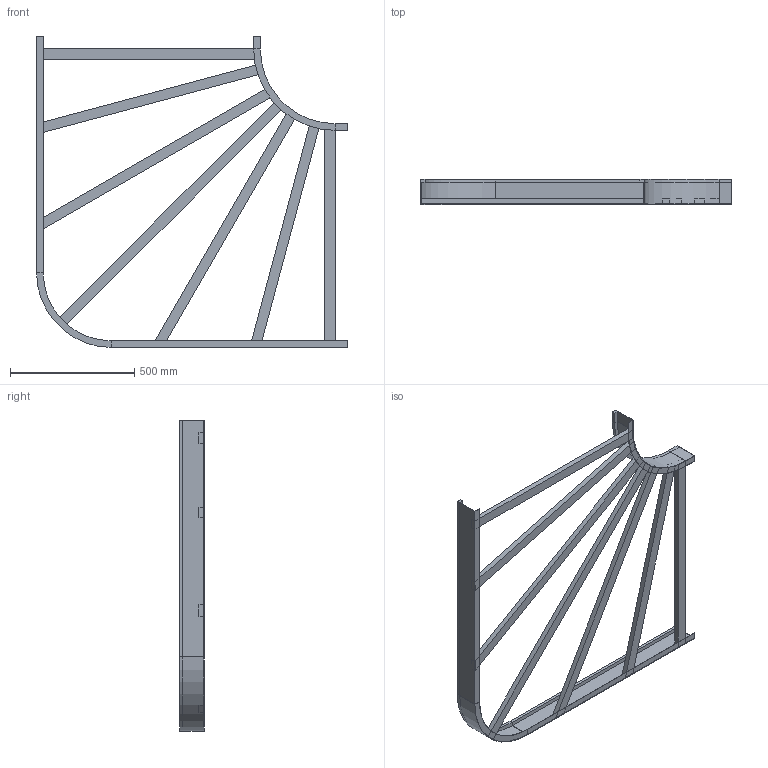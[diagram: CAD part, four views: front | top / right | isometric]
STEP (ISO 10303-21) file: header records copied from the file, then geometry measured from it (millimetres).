
FILE_DESCRIPTION (( 'STEP AP214' ), '1' );
FILE_NAME ('B2_10B3D900.step', '2025-02-21T15:23:49', ( '' ), ( '' ), 'SwSTEP 2.0', 'SolidWorks 2023', '' );
FILE_SCHEMA (( 'AUTOMOTIVE_DESIGN' ));
Length unit declared in the file: millimetre
Products named in the file (7): B2_LONGH.INTERNO 90°_H100_R300; TRAVERSINO_1267; B2_10B3D900; TRAVERSINO_956_SCANTONATO; TRAVERSINO_900; TRAVERSINO_1050_SCANTONATO; B2_LONGH.ESTERNO 90°_H100_R300+900
Assembly tree (9 placements, depth 2):
  B2_10B3D900
    B2_LONGH.INTERNO 90°_H100_R300
    B2_LONGH.ESTERNO 90°_H100_R300+900
    TRAVERSINO_900  x2
    TRAVERSINO_956_SCANTONATO  x2
    TRAVERSINO_1050_SCANTONATO  x2
    TRAVERSINO_1267
Bounding box: 1250 x 100 x 1250 mm (x, y, z)
Volume: 7065345.2 mm3; surface area: 1716085.9 mm2
Topology: 9 solids, 9 shells, 94 faces, 196 edges, 120 vertices
Faces by surface type: plane 86, cylinder 8
Entity records: 2208 total; most frequent: DIRECTION 352, CARTESIAN_POINT 344, ORIENTED_EDGE 320, EDGE_CURVE 160, LINE 144, VECTOR 144, AXIS2_PLACEMENT_3D 104, VERTEX_POINT 96
